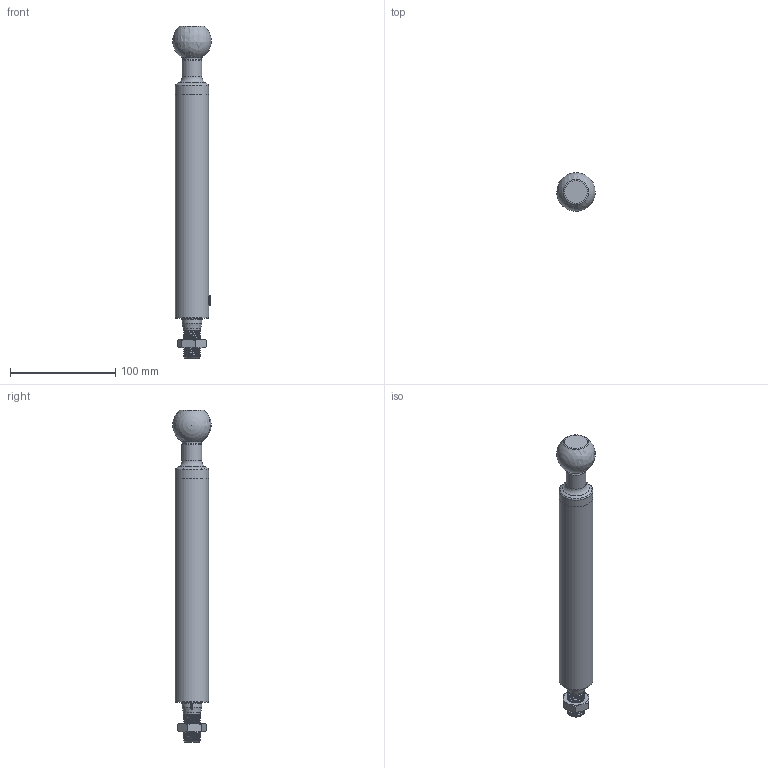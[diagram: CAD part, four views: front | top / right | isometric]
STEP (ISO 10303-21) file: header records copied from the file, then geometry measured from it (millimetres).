
FILE_DESCRIPTION(/* description */ (''),/* implementation_level */ '2;1');
FILE_NAME(/* name */ 'C:\Users\owner\Desktop\HDPL-POSTS_3D_stp\HDPL-TPOST6IN-THD.stp',/* time_stamp */ '2017-10-02T09:26:26-04:00',/* author */ ('owner'),/* organization */ (''),/* preprocessor_version */ 'ST-DEVELOPER v16.5',/* originating_system */ 'Autodesk Inventor 2017',/* authorisation */ '');
FILE_SCHEMA (('CONFIG_CONTROL_DESIGN'));
Length unit declared in the file: inch
Products named in the file (7): PL-HDTPOST6IN-THD; 60068; 60071; 60067; #92775; 60075; #90710
Assembly tree (6 placements, depth 2):
  PL-HDTPOST6IN-THD
    60068
    60071
    60067
    #92775
    60075
    #90710
Bounding box: 36.65 x 36.43 x 314.74 mm (x, y, z)
Volume: 212107.9 mm3; surface area: 66193.7 mm2
Topology: 7 solids, 7 shells, 992 faces, 2660 edges, 1752 vertices
Faces by surface type: plane 413, bspline 413, cylinder 109, cone 35, torus 21, sphere 1
Full cylindrical faces by diameter (mm): 7 x1, 8.382 x1, 9.131 x1, 10.033 x1, 10.668 x1, 10.744 x1, 10.757 x2, 13.392 x2, 18.796 x1, 18.923 x1, 19.05 x1, 19.446 x1, 19.482 x1, 22.123 x1, 22.187 x1, 22.225 x2, 31.75 x2
Entity records: 47954 total; most frequent: CARTESIAN_POINT 26058, ORIENTED_EDGE 5072, DIRECTION 3327, EDGE_CURVE 2536, VERTEX_POINT 1702, LINE 1195, VECTOR 1195, EDGE_LOOP 1138
